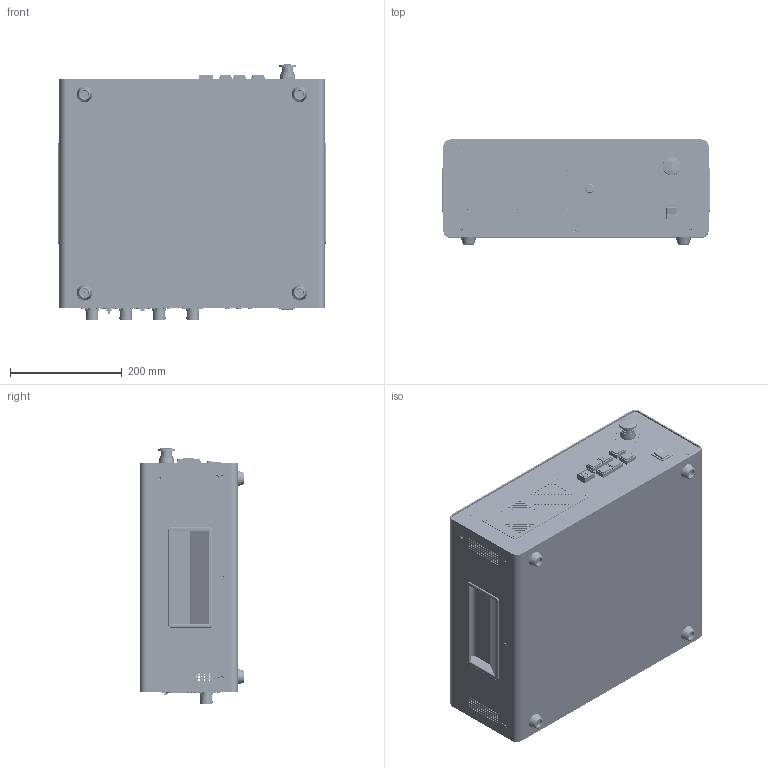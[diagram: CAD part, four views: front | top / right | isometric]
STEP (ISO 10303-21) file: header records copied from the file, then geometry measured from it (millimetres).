
FILE_DESCRIPTION (( 'STEP AP203' ), '1' );
FILE_NAME ('Mehrachs-Controller iPU-DC_iPU-EC - ArtNr 353000 X0XX.STEP', '2013-02-26T09:15:08', ( 'test' ), ( 'Microsoft' ), 'SwSTEP 2.0', 'SolidWorks 2012', '' );
FILE_SCHEMA (( 'CONFIG_CONTROL_DESIGN' ));
Products named in the file (1): Mehrachs-Controller iPU-DC_iPU-EC - ArtNr 353000 X0XX
Bounding box: 480 x 187.5 x 457.55 mm (x, y, z)
Volume: 2476944.6 mm3; surface area: 2418538 mm2
Topology: 118 solids, 118 shells, 9186 faces, 22008 edges, 13903 vertices
Faces by surface type: plane 6790, cylinder 1537, bspline 404, cone 280, torus 152, sphere 23
Full cylindrical faces by diameter (mm): 1.25 x186, 1.5 x27, 1.75 x93, 2 x45, 2.5 x122, 2.7 x16, 2.9 x4, 3 x48, 3.2 x32, 3.4 x14, 3.5 x47, 4 x11, 4.3 x1, 5 x34, 5.5 x8, 6 x2, 7 x1, 10 x6, 13.5 x4, 16 x17, 18 x8, 19.5 x3, 20 x8, 21.6 x8, 21.7 x24, 22 x2, 22.5 x1, 22.7 x28, 23 x1, 23.5 x4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
Entity records: 278445 total; most frequent: CARTESIAN_POINT 69214, ORIENTED_EDGE 41420, DIRECTION 40667, EDGE_CURVE 20710, VECTOR 16059, LINE 16059, VERTEX_POINT 13730, EDGE_LOOP 12534
